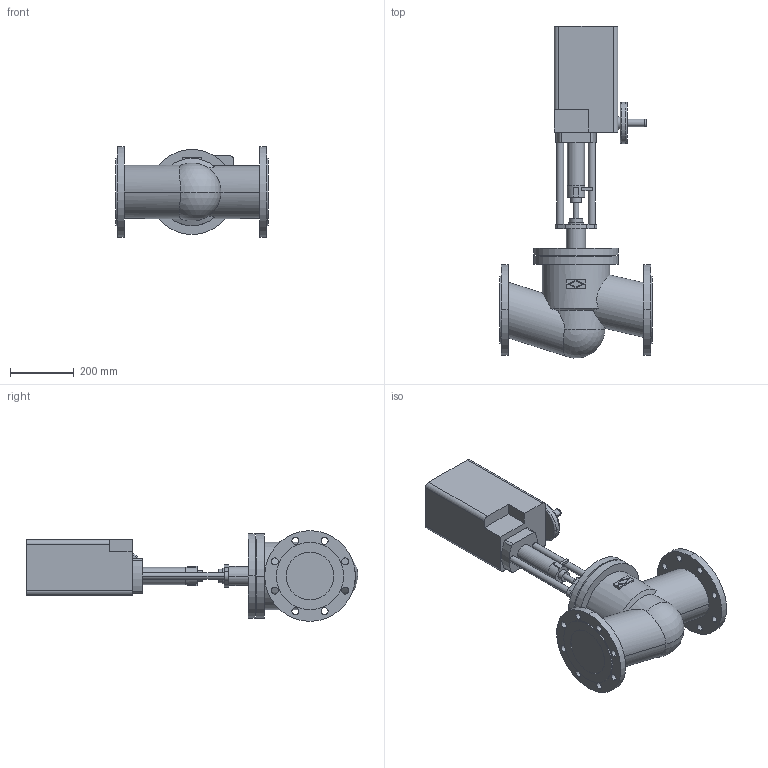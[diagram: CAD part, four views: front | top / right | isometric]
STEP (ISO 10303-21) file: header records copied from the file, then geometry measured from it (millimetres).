
FILE_DESCRIPTION(('OneSpaceDesigner STEP Export'),'2;1');
FILE_NAME('c000003126.stp','2007-01-16T10:43:13',(''),(''),'OneSpace Designer STEP processor for AP214 (Solid Model)','OneSpace Designer 14.00B 27-May-2006 (C) CoCreate Software GmbH','');
FILE_SCHEMA(('AUTOMOTIVE_DESIGN { 1 0 10303 214 1 1 1 1 }'));
Length unit declared in the file: millimetre
Products named in the file (2): 1; 2
Bounding box: 480 x 1043.27 x 285 mm (x, y, z)
Volume: 32725654.8 mm3; surface area: 1187112.7 mm2
Topology: 2 solids, 2 shells, 180 faces, 444 edges, 294 vertices
Faces by surface type: cylinder 96, plane 74, torus 6, cone 2, sphere 2
Entity records: 5134 total; most frequent: CARTESIAN_POINT 1105, ORIENTED_EDGE 884, DIRECTION 740, EDGE_CURVE 442, VERTEX_POINT 294, AXIS2_PLACEMENT_3D 266, EDGE_LOOP 240, VECTOR 208
